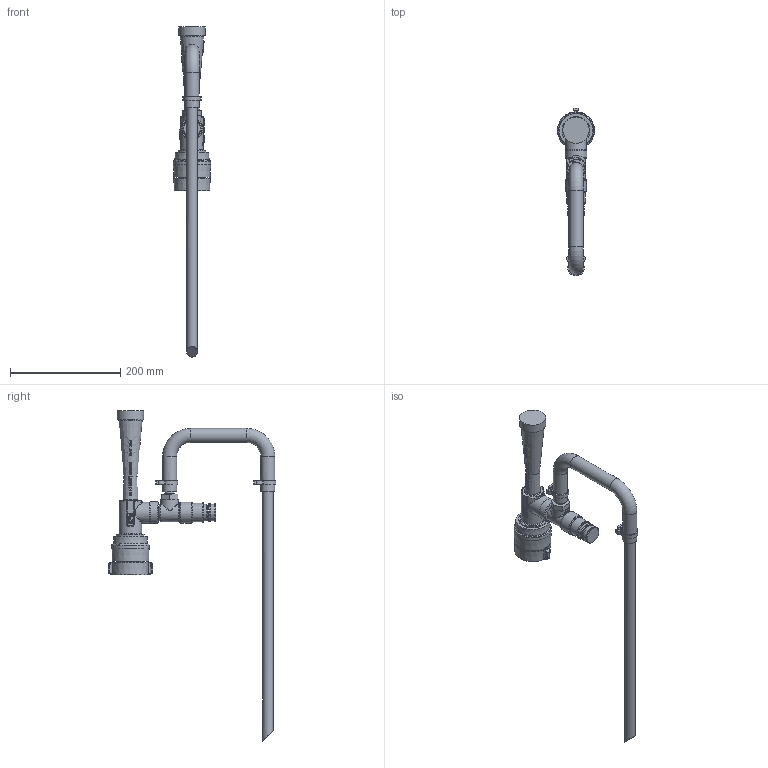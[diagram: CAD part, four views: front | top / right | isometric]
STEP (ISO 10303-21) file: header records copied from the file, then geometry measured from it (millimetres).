
FILE_DESCRIPTION (( 'STEP AP203' ), '1' );
FILE_NAME ('Z-Mous_225.STEP', '2014-04-30T14:56:45', ( 'eb' ), ( '' ), 'SwSTEP 2.0', 'SolidWorks 2013', '' );
FILE_SCHEMA (( 'CONFIG_CONTROL_DESIGN' ));
Length unit declared in the file: inch
Products named in the file (1): Z-Mous_225
Bounding box: 67.69 x 304.31 x 598.17 mm (x, y, z)
Volume: 929132.7 mm3; surface area: 132573.6 mm2
Topology: 2 solids, 2 shells, 576 faces, 1456 edges, 934 vertices
Faces by surface type: plane 340, cylinder 93, bspline 88, cone 25, torus 21, sphere 9
Full cylindrical faces by diameter (mm): 17.145 x1, 19.05 x1, 22.174 x1, 25.4 x4, 27.305 x1, 30.48 x2, 31.75 x2, 32.544 x1, 33.338 x1, 34.925 x2, 38.1 x2, 39.688 x1, 41.275 x1, 47.803 x1, 49.2 x1, 50.673 x1, 65.806 x1
Entity records: 24487 total; most frequent: CARTESIAN_POINT 11989, ORIENTED_EDGE 2728, DIRECTION 2230, EDGE_CURVE 1364, VERTEX_POINT 904, AXIS2_PLACEMENT_3D 764, VECTOR 702, LINE 702
